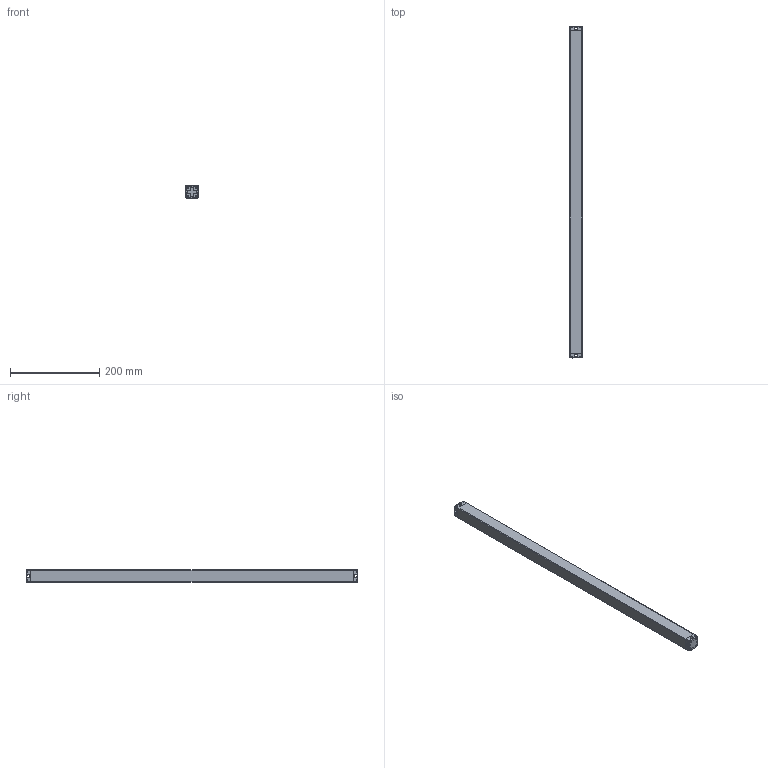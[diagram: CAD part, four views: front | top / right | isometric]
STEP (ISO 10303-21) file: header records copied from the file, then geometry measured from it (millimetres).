
FILE_DESCRIPTION((''),'2;1');
FILE_NAME('ELD00_ASM','2021-07-20T09:50:58',('18720616900'),(''),'CREO PARAMETRIC BY PTC INC, 2019010','CREO PARAMETRIC BY PTC INC, 2019010','');
FILE_SCHEMA(('CONFIG_CONTROL_DESIGN'));
Length unit declared in the file: millimetre
Products named in the file (6): ELD--00; ELD--000; ST-3-12; ELD00_ASM
Assembly tree (12 placements, depth 2):
  ELD00_ASM
    ELD--00
    ELD--000
    ELD--000
    ELD--000
    ST-3-12  x8
Bounding box: 28 x 742 x 28 mm (x, y, z)
Volume: 577517.3 mm3; surface area: 123410 mm2
Topology: 12 solids, 12 shells, 792 faces, 2082 edges, 1296 vertices
Faces by surface type: plane 236, cone 172, bspline 168, cylinder 156, torus 44, sphere 16
Entity records: 14414 total; most frequent: CARTESIAN_POINT 6863, ORIENTED_EDGE 1584, DIRECTION 1469, EDGE_CURVE 792, AXIS2_PLACEMENT_3D 520, VERTEX_POINT 491, VECTOR 429, LINE 429
